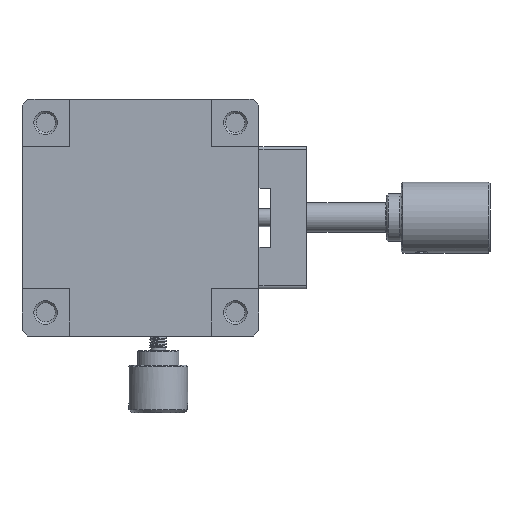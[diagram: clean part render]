
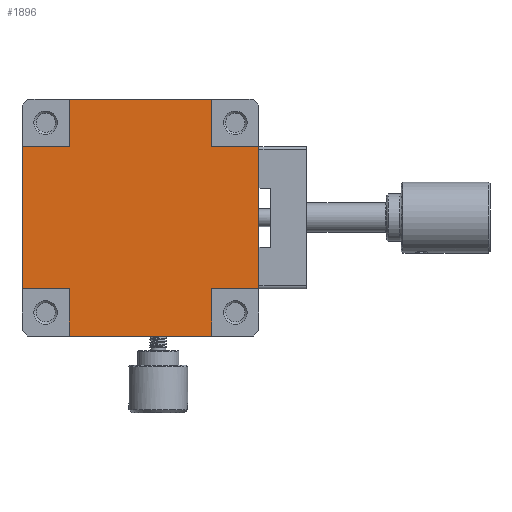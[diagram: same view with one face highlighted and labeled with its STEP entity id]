
A CAD part, front view. The second image highlights one B-rep face of the part: STEP entity #1896.
In plain terms, the highlighted planar face has unit normal (0, -1, 0).
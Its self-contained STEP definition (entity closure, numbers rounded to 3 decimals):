
#16 = VECTOR ( 'NONE', #23010, 1000. ) ;
#140 = EDGE_CURVE ( 'NONE', #32217, #29896, #431, .T. ) ;
#151 = CARTESIAN_POINT ( 'NONE',  ( 12., 0.3, -12. ) ) ;
#178 = DIRECTION ( 'NONE',  ( 0., 0., -1. ) ) ;
#431 = LINE ( 'NONE', #3235, #36452 ) ;
#487 = EDGE_LOOP ( 'NONE', ( #35359, #28555, #33189, #17338, #12625, #25473, #15753, #28581, #29240, #24398, #8732, #15802 ) ) ;
#491 = EDGE_CURVE ( 'NONE', #24035, #4422, #1182, .T. ) ;
#839 = DIRECTION ( 'NONE',  ( -1., 0., 0. ) ) ;
#1182 = LINE ( 'NONE', #12608, #14965 ) ;
#1438 = LINE ( 'NONE', #18305, #19728 ) ;
#1896 = ADVANCED_FACE ( 'NONE', ( #10660 ), #36124, .T. ) ;
#2140 = DIRECTION ( 'NONE',  ( -1., 0., 0. ) ) ;
#2200 = VECTOR ( 'NONE', #839, 1000. ) ;
#2782 = LINE ( 'NONE', #17787, #25194 ) ;
#3038 = EDGE_CURVE ( 'NONE', #19637, #29896, #10953, .T. ) ;
#3235 = CARTESIAN_POINT ( 'NONE',  ( -20., 0.3, 12. ) ) ;
#3560 = EDGE_CURVE ( 'NONE', #19637, #18031, #2782, .T. ) ;
#3629 = CARTESIAN_POINT ( 'NONE',  ( 20., 0.3, -12. ) ) ;
#4051 = DIRECTION ( 'NONE',  ( 0., 0., -1. ) ) ;
#4422 = VERTEX_POINT ( 'NONE', #10691 ) ;
#4819 = CARTESIAN_POINT ( 'NONE',  ( 12., 0.3, 12. ) ) ;
#4942 = CARTESIAN_POINT ( 'NONE',  ( -12., 0.3, 20. ) ) ;
#4954 = CARTESIAN_POINT ( 'NONE',  ( 12., 0.3, -20. ) ) ;
#5213 = CARTESIAN_POINT ( 'NONE',  ( -20., 0.3, -20. ) ) ;
#5259 = VECTOR ( 'NONE', #35261, 1000. ) ;
#5607 = EDGE_CURVE ( 'NONE', #34108, #14542, #35978, .T. ) ;
#6503 = CARTESIAN_POINT ( 'NONE',  ( 12., 0.3, -20. ) ) ;
#7047 = VECTOR ( 'NONE', #30668, 1000. ) ;
#7397 = EDGE_CURVE ( 'NONE', #27851, #24977, #27969, .T. ) ;
#8593 = LINE ( 'NONE', #34046, #16 ) ;
#8732 = ORIENTED_EDGE ( 'NONE', *, *, #15353, .F. ) ;
#9793 = CARTESIAN_POINT ( 'NONE',  ( -12., 0.3, 12. ) ) ;
#10113 = VECTOR ( 'NONE', #36216, 1000. ) ;
#10660 = FACE_OUTER_BOUND ( 'NONE', #487, .T. ) ;
#10691 = CARTESIAN_POINT ( 'NONE',  ( 12., 0.3, 12. ) ) ;
#10861 = VECTOR ( 'NONE', #11694, 1000. ) ;
#10953 = LINE ( 'NONE', #33971, #10861 ) ;
#11694 = DIRECTION ( 'NONE',  ( -1., 0., 0. ) ) ;
#11958 = EDGE_CURVE ( 'NONE', #15056, #27851, #1438, .T. ) ;
#12608 = CARTESIAN_POINT ( 'NONE',  ( 12., 0.3, 12. ) ) ;
#12625 = ORIENTED_EDGE ( 'NONE', *, *, #33978, .T. ) ;
#13392 = CARTESIAN_POINT ( 'NONE',  ( -12., 0.3, 20. ) ) ;
#14262 = VECTOR ( 'NONE', #2140, 1000. ) ;
#14542 = VERTEX_POINT ( 'NONE', #9793 ) ;
#14965 = VECTOR ( 'NONE', #24027, 1000. ) ;
#15056 = VERTEX_POINT ( 'NONE', #18012 ) ;
#15353 = EDGE_CURVE ( 'NONE', #36645, #18031, #8593, .T. ) ;
#15753 = ORIENTED_EDGE ( 'NONE', *, *, #30082, .T. ) ;
#15802 = ORIENTED_EDGE ( 'NONE', *, *, #35555, .F. ) ;
#16085 = LINE ( 'NONE', #4819, #7047 ) ;
#16666 = DIRECTION ( 'NONE',  ( 0., -1., 0. ) ) ;
#17113 = DIRECTION ( 'NONE',  ( 0., 0., -1. ) ) ;
#17338 = ORIENTED_EDGE ( 'NONE', *, *, #491, .F. ) ;
#17787 = CARTESIAN_POINT ( 'NONE',  ( -12., 0.3, -12. ) ) ;
#18012 = CARTESIAN_POINT ( 'NONE',  ( 20., 0.3, 12. ) ) ;
#18031 = VERTEX_POINT ( 'NONE', #30156 ) ;
#18305 = CARTESIAN_POINT ( 'NONE',  ( 20., 0.3, 12. ) ) ;
#19394 = LINE ( 'NONE', #4954, #19727 ) ;
#19621 = CARTESIAN_POINT ( 'NONE',  ( -20., 0.3, 12. ) ) ;
#19637 = VERTEX_POINT ( 'NONE', #35229 ) ;
#19727 = VECTOR ( 'NONE', #22374, 1000. ) ;
#19728 = VECTOR ( 'NONE', #4051, 1000. ) ;
#19827 = AXIS2_PLACEMENT_3D ( 'NONE', #5213, #16666, #24885 ) ;
#22374 = DIRECTION ( 'NONE',  ( 0., 0., -1. ) ) ;
#22605 = LINE ( 'NONE', #19621, #2200 ) ;
#22764 = CARTESIAN_POINT ( 'NONE',  ( 12., 0.3, 20. ) ) ;
#23010 = DIRECTION ( 'NONE',  ( -1., 0., 0. ) ) ;
#24027 = DIRECTION ( 'NONE',  ( 0., 0., -1. ) ) ;
#24035 = VERTEX_POINT ( 'NONE', #22764 ) ;
#24398 = ORIENTED_EDGE ( 'NONE', *, *, #3560, .T. ) ;
#24885 = DIRECTION ( 'NONE',  ( 1., 0., 0. ) ) ;
#24977 = VERTEX_POINT ( 'NONE', #151 ) ;
#25194 = VECTOR ( 'NONE', #178, 1000. ) ;
#25473 = ORIENTED_EDGE ( 'NONE', *, *, #5607, .T. ) ;
#25849 = LINE ( 'NONE', #4942, #10113 ) ;
#26264 = CARTESIAN_POINT ( 'NONE',  ( -20., 0.3, 12. ) ) ;
#27471 = CARTESIAN_POINT ( 'NONE',  ( -20., 0.3, -12. ) ) ;
#27851 = VERTEX_POINT ( 'NONE', #3629 ) ;
#27969 = LINE ( 'NONE', #33604, #14262 ) ;
#28555 = ORIENTED_EDGE ( 'NONE', *, *, #11958, .F. ) ;
#28581 = ORIENTED_EDGE ( 'NONE', *, *, #140, .T. ) ;
#29240 = ORIENTED_EDGE ( 'NONE', *, *, #3038, .F. ) ;
#29896 = VERTEX_POINT ( 'NONE', #27471 ) ;
#30001 = CARTESIAN_POINT ( 'NONE',  ( -12., 0.3, 20. ) ) ;
#30082 = EDGE_CURVE ( 'NONE', #14542, #32217, #22605, .T. ) ;
#30156 = CARTESIAN_POINT ( 'NONE',  ( -12., 0.3, -20. ) ) ;
#30668 = DIRECTION ( 'NONE',  ( -1., 0., 0. ) ) ;
#31573 = EDGE_CURVE ( 'NONE', #15056, #4422, #16085, .T. ) ;
#32217 = VERTEX_POINT ( 'NONE', #26264 ) ;
#33189 = ORIENTED_EDGE ( 'NONE', *, *, #31573, .T. ) ;
#33604 = CARTESIAN_POINT ( 'NONE',  ( 20., 0.3, -12. ) ) ;
#33971 = CARTESIAN_POINT ( 'NONE',  ( -12., 0.3, -12. ) ) ;
#33978 = EDGE_CURVE ( 'NONE', #24035, #34108, #25849, .T. ) ;
#34046 = CARTESIAN_POINT ( 'NONE',  ( 12., 0.3, -20. ) ) ;
#34108 = VERTEX_POINT ( 'NONE', #13392 ) ;
#35229 = CARTESIAN_POINT ( 'NONE',  ( -12., 0.3, -12. ) ) ;
#35261 = DIRECTION ( 'NONE',  ( 0., 0., -1. ) ) ;
#35359 = ORIENTED_EDGE ( 'NONE', *, *, #7397, .F. ) ;
#35555 = EDGE_CURVE ( 'NONE', #24977, #36645, #19394, .T. ) ;
#35978 = LINE ( 'NONE', #30001, #5259 ) ;
#36124 = PLANE ( 'NONE',  #19827 ) ;
#36216 = DIRECTION ( 'NONE',  ( -1., 0., 0. ) ) ;
#36452 = VECTOR ( 'NONE', #17113, 1000. ) ;
#36645 = VERTEX_POINT ( 'NONE', #6503 ) ;
